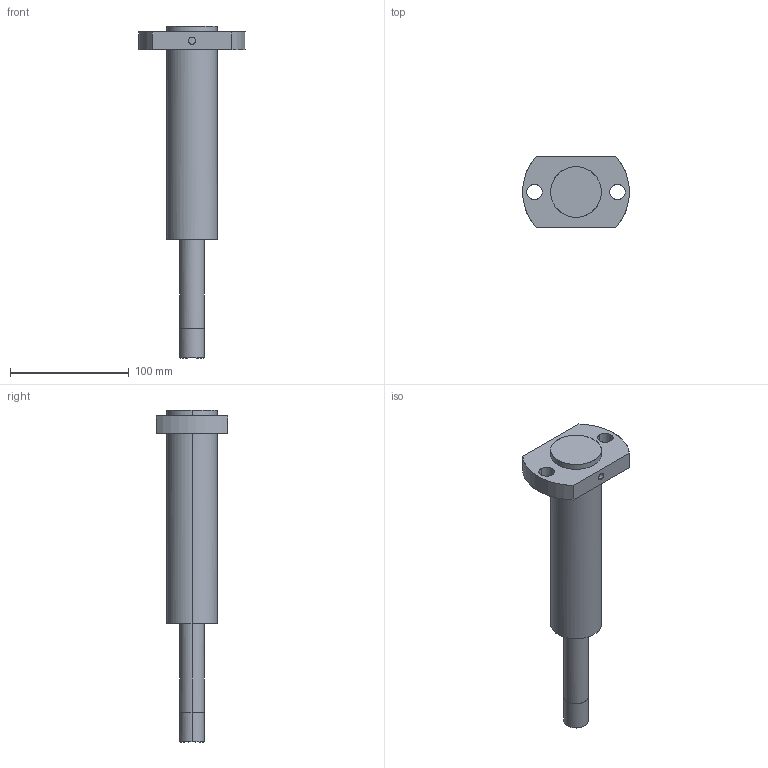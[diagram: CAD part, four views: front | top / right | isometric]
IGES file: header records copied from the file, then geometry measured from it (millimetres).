
Global section: file name: E:\UnigraphicsGraphicData\MISUMI_PRESS-PARTS\IGES\3d_papzu20-100-180-160-90_01715_r00.igs; native system: NX V5.0; preprocessor: UGS NX IGES V5.0; author: MISUMI; date: 20110105.162229; units: millimetre
Bounding box: 90 x 60 x 280 mm (x, y, z)
Surface area: 49585.9 mm2 (no closed solid volume)
Topology: 0 solids, 0 shells, 32 faces, 292 edges, 292 vertices
Faces by surface type: bspline 32
